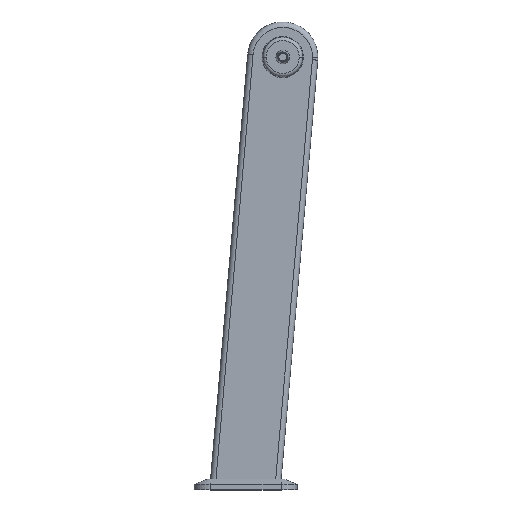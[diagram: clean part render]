
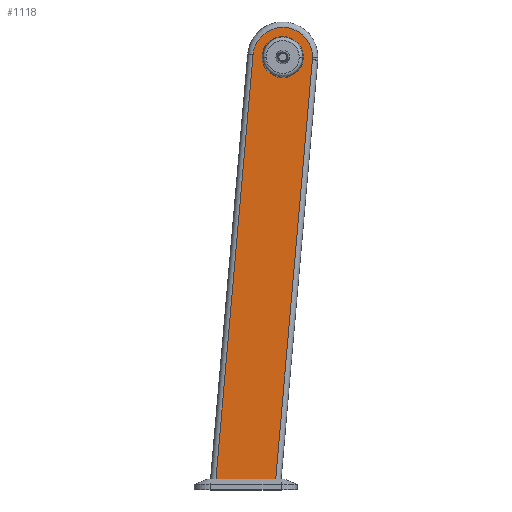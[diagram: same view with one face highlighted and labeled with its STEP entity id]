
A CAD part, top view. The second image highlights one B-rep face of the part: STEP entity #1118.
In plain terms, the highlighted planar face has unit normal (0, 0, 1).
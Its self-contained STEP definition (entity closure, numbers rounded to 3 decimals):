
#7 = VERTEX_POINT ( 'NONE', #2178 ) ;
#28 = CARTESIAN_POINT ( 'NONE',  ( 0., 0., 31.25 ) ) ;
#177 = AXIS2_PLACEMENT_3D ( 'NONE', #777, #1279, #3064 ) ;
#257 = PLANE ( 'NONE',  #177 ) ;
#273 = LINE ( 'NONE', #1305, #2912 ) ;
#278 = EDGE_CURVE ( 'NONE', #2251, #3045, #727, .T. ) ;
#297 = DIRECTION ( 'NONE',  ( 1., 0., 0. ) ) ;
#303 = EDGE_CURVE ( 'NONE', #3234, #331, #2592, .T. ) ;
#331 = VERTEX_POINT ( 'NONE', #3182 ) ;
#389 = CARTESIAN_POINT ( 'NONE',  ( 0., 0., 31.25 ) ) ;
#547 = ORIENTED_EDGE ( 'NONE', *, *, #1157, .T. ) ;
#564 = CARTESIAN_POINT ( 'NONE',  ( 54.791, -4.794, 31.25 ) ) ;
#573 = EDGE_LOOP ( 'NONE', ( #547, #1009, #1247, #1483, #1128 ) ) ;
#645 = DIRECTION ( 'NONE',  ( 1., 0., 0. ) ) ;
#653 = EDGE_CURVE ( 'NONE', #3045, #3234, #2999, .T. ) ;
#685 = EDGE_CURVE ( 'NONE', #1011, #7, #2237, .T. ) ;
#727 = CIRCLE ( 'NONE', #2724, 55. ) ;
#733 = CARTESIAN_POINT ( 'NONE',  ( 38., 0., 31.25 ) ) ;
#748 = AXIS2_PLACEMENT_3D ( 'NONE', #1203, #2997, #1459 ) ;
#777 = CARTESIAN_POINT ( 'NONE',  ( 0., 0., 31.25 ) ) ;
#936 = ORIENTED_EDGE ( 'NONE', *, *, #685, .F. ) ;
#1009 = ORIENTED_EDGE ( 'NONE', *, *, #278, .T. ) ;
#1011 = VERTEX_POINT ( 'NONE', #733 ) ;
#1072 = DIRECTION ( 'NONE',  ( 0., 0., 1. ) ) ;
#1114 = FACE_OUTER_BOUND ( 'NONE', #573, .T. ) ;
#1118 = ADVANCED_FACE ( 'NONE', ( #1114, #2388 ), #257, .T. ) ;
#1128 = ORIENTED_EDGE ( 'NONE', *, *, #3261, .T. ) ;
#1157 = EDGE_CURVE ( 'NONE', #1490, #2251, #273, .T. ) ;
#1203 = CARTESIAN_POINT ( 'NONE',  ( 0., 0., 31.25 ) ) ;
#1247 = ORIENTED_EDGE ( 'NONE', *, *, #653, .T. ) ;
#1279 = DIRECTION ( 'NONE',  ( 0., 0., 1. ) ) ;
#1305 = CARTESIAN_POINT ( 'NONE',  ( 54.791, -4.794, 31.25 ) ) ;
#1323 = ORIENTED_EDGE ( 'NONE', *, *, #2934, .F. ) ;
#1459 = DIRECTION ( 'NONE',  ( 1., 0., 0. ) ) ;
#1483 = ORIENTED_EDGE ( 'NONE', *, *, #303, .T. ) ;
#1490 = VERTEX_POINT ( 'NONE', #1727 ) ;
#1653 = DIRECTION ( 'NONE',  ( -0.087, -0.996, 0. ) ) ;
#1727 = CARTESIAN_POINT ( 'NONE',  ( -13.031, -780., 31.25 ) ) ;
#1810 = DIRECTION ( 'NONE',  ( 0., 0., 1. ) ) ;
#1913 = VECTOR ( 'NONE', #1653, 1000. ) ;
#1968 = LINE ( 'NONE', #3126, #2573 ) ;
#1993 = EDGE_LOOP ( 'NONE', ( #936, #1323 ) ) ;
#2009 = CARTESIAN_POINT ( 'NONE',  ( 55., 0., 31.25 ) ) ;
#2159 = DIRECTION ( 'NONE',  ( 0., 0., 1. ) ) ;
#2178 = CARTESIAN_POINT ( 'NONE',  ( -38., 0., 31.25 ) ) ;
#2237 = CIRCLE ( 'NONE', #3265, 38. ) ;
#2251 = VERTEX_POINT ( 'NONE', #564 ) ;
#2331 = CIRCLE ( 'NONE', #748, 38. ) ;
#2353 = CARTESIAN_POINT ( 'NONE',  ( -54.791, 4.794, 31.25 ) ) ;
#2388 = FACE_BOUND ( 'NONE', #1993, .T. ) ;
#2421 = CARTESIAN_POINT ( 'NONE',  ( -125.277, -800.872, 31.25 ) ) ;
#2573 = VECTOR ( 'NONE', #3136, 1000. ) ;
#2586 = AXIS2_PLACEMENT_3D ( 'NONE', #28, #1810, #297 ) ;
#2592 = LINE ( 'NONE', #2421, #1913 ) ;
#2602 = CARTESIAN_POINT ( 'NONE',  ( 0., 0., 31.25 ) ) ;
#2724 = AXIS2_PLACEMENT_3D ( 'NONE', #389, #2159, #645 ) ;
#2861 = DIRECTION ( 'NONE',  ( 1., 0., 0. ) ) ;
#2912 = VECTOR ( 'NONE', #3089, 1000. ) ;
#2934 = EDGE_CURVE ( 'NONE', #7, #1011, #2331, .T. ) ;
#2997 = DIRECTION ( 'NONE',  ( 0., 0., 1. ) ) ;
#2999 = CIRCLE ( 'NONE', #2586, 55. ) ;
#3045 = VERTEX_POINT ( 'NONE', #2009 ) ;
#3064 = DIRECTION ( 'NONE',  ( 1., 0., 0. ) ) ;
#3089 = DIRECTION ( 'NONE',  ( 0.087, 0.996, 0. ) ) ;
#3126 = CARTESIAN_POINT ( 'NONE',  ( 0., -780., 31.25 ) ) ;
#3136 = DIRECTION ( 'NONE',  ( 1., 0., 0. ) ) ;
#3182 = CARTESIAN_POINT ( 'NONE',  ( -123.451, -780., 31.25 ) ) ;
#3234 = VERTEX_POINT ( 'NONE', #2353 ) ;
#3261 = EDGE_CURVE ( 'NONE', #331, #1490, #1968, .T. ) ;
#3265 = AXIS2_PLACEMENT_3D ( 'NONE', #2602, #1072, #2861 ) ;
